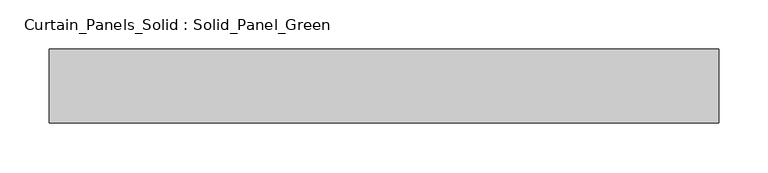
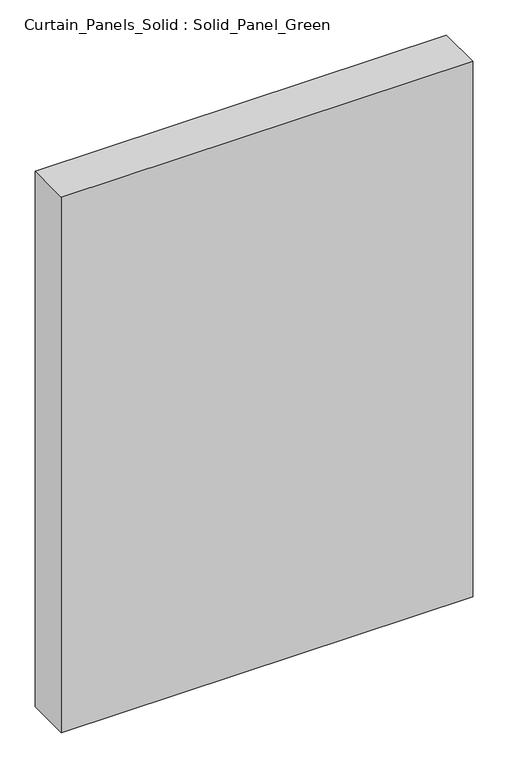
"""IFC4 building model written with IfcOpenShell, lengths in millimetres: plate geometry, Curtain_Panels_Solid : Solid_Panel_Green."""

from ifc_helpers import new_model, si_unit, origin, origin_with_axes, place, context, project, spatial, polyline, outline, extrude, source, transform, mapped, element, save


def curtain_panels_solid_solid_panel_green_b02dfbd0(model_context):
    return source(origin(), model_context, "Body", "SweptSolid", [
        extrude(outline(polyline([(338.7500001, -25.0), (-338.7500001, -25.0), (-338.7500001, 50.0), (338.7500001, 50.0), (338.7500001, -25.0)])), origin_with_axes(), (0.0, 0.0, 1.0), 932.5),
    ])


if __name__ == "__main__":
    model = new_model("IFC4")
    model_context = context("Model", 3, world=origin())
    ifc_project = project(units=[si_unit("LENGTHUNIT", "METRE", prefix="MILLI")], contexts=[model_context])
    site = spatial("IfcSite", under=ifc_project)
    building = spatial("IfcBuilding", under=site)
    placement = place(None, origin())
    curtain_panels_solid_solid_panel_green_shape = curtain_panels_solid_solid_panel_green_b02dfbd0(model_context)
    element("IfcPlate", 1, ObjectType="Curtain_Panels_Solid : Solid_Panel_Green", at=placement, inside=building, context=model_context, shape_type="MappedRepresentation", body=[
        mapped(curtain_panels_solid_solid_panel_green_shape, transform((0.0, 0.0, 0.0), x_axis=(1.0, 0.0, 0.0), y_axis=(0.0, 1.0, 0.0), z_axis=(0.0, 0.0, 1.0))),
    ])
    save(model, "model.ifc")
